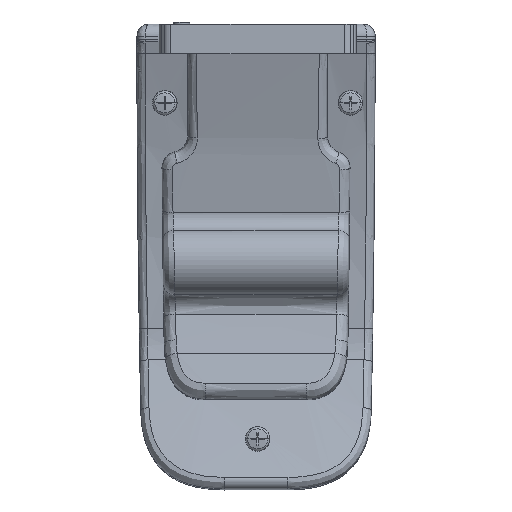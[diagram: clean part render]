
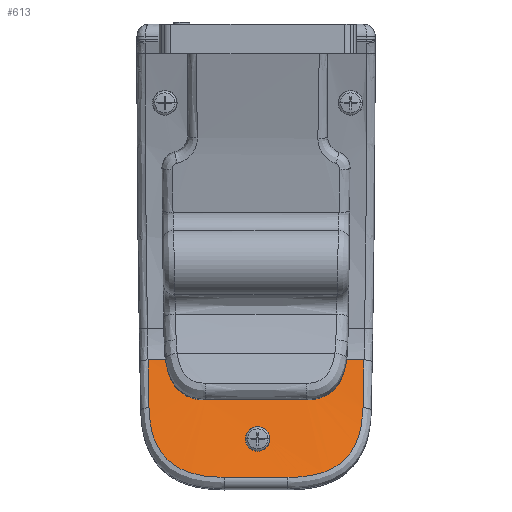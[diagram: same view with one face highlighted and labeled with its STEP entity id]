
A CAD part, left-side view. The second image highlights one B-rep face of the part: STEP entity #613.
In plain terms, the highlighted free-form (B-spline) face has degree [1, 2] with [2, 3] control points.
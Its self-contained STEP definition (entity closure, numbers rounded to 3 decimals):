
#122=FACE_BOUND($,#1878,.T.);
#613=ADVANCED_FACE($,(#1226,#122),#8068,.T.);
#1226=FACE_OUTER_BOUND($,#1877,.T.);
#1877=EDGE_LOOP($,(#4468,#4469,#4470,#4471,#4472,#4473,#4474,#4475,#4476,
#4477));
#1878=EDGE_LOOP($,(#4478,#4479));
#4468=ORIENTED_EDGE($,*,*,#6319,.F.);
#4469=ORIENTED_EDGE($,*,*,#6314,.T.);
#4470=ORIENTED_EDGE($,*,*,#6329,.F.);
#4471=ORIENTED_EDGE($,*,*,#6328,.F.);
#4472=ORIENTED_EDGE($,*,*,#6327,.F.);
#4473=ORIENTED_EDGE($,*,*,#6326,.F.);
#4474=ORIENTED_EDGE($,*,*,#6325,.F.);
#4475=ORIENTED_EDGE($,*,*,#6317,.T.);
#4476=ORIENTED_EDGE($,*,*,#6324,.F.);
#4477=ORIENTED_EDGE($,*,*,#6323,.F.);
#4478=ORIENTED_EDGE($,*,*,#6330,.F.);
#4479=ORIENTED_EDGE($,*,*,#6331,.F.);
#6314=EDGE_CURVE($,#7393,#7394,#9527,.T.);
#6317=EDGE_CURVE($,#7395,#7396,#9530,.T.);
#6319=EDGE_CURVE($,#7393,#7397,#9532,.T.);
#6323=EDGE_CURVE($,#7397,#7400,#9535,.T.);
#6324=EDGE_CURVE($,#7400,#7396,#9536,.T.);
#6325=EDGE_CURVE($,#7395,#7401,#9537,.T.);
#6326=EDGE_CURVE($,#7401,#7402,#9538,.T.);
#6327=EDGE_CURVE($,#7402,#7403,#9539,.T.);
#6328=EDGE_CURVE($,#7403,#7404,#9540,.T.);
#6329=EDGE_CURVE($,#7404,#7394,#9541,.T.);
#6330=EDGE_CURVE($,#7405,#7406,#9542,.T.);
#6331=EDGE_CURVE($,#7406,#7405,#9543,.T.);
#7393=VERTEX_POINT($,#26791);
#7394=VERTEX_POINT($,#26792);
#7395=VERTEX_POINT($,#26793);
#7396=VERTEX_POINT($,#26794);
#7397=VERTEX_POINT($,#26795);
#7400=VERTEX_POINT($,#26798);
#7401=VERTEX_POINT($,#26799);
#7402=VERTEX_POINT($,#26800);
#7403=VERTEX_POINT($,#26801);
#7404=VERTEX_POINT($,#26802);
#7405=VERTEX_POINT($,#26803);
#7406=VERTEX_POINT($,#26804);
#8068=(
BOUNDED_SURFACE()
B_SPLINE_SURFACE(1,2,((#24773,#24774,#24775),(#24776,#24777,#24778)),.UNSPECIFIED.,
.F.,.F.,.F.)
B_SPLINE_SURFACE_WITH_KNOTS((2,2),(3,3),(2.629,28.919),
(219.428,234.734),.UNSPECIFIED.)
GEOMETRIC_REPRESENTATION_ITEM()
RATIONAL_B_SPLINE_SURFACE(((1.,0.998,1.),(1.,0.998,
1.)))
REPRESENTATION_ITEM($)
SURFACE()
);
#9527=B_SPLINE_CURVE_WITH_KNOTS($,3,(#23550,#23551,#23552,#23553),.UNSPECIFIED.,
.F.,.F.,(4,4),(0.,2.106),.UNSPECIFIED.);
#9530=B_SPLINE_CURVE_WITH_KNOTS($,3,(#23562,#23563,#23564,#23565),.UNSPECIFIED.,
.F.,.F.,(4,4),(0.,2.106),.UNSPECIFIED.);
#9532=B_SPLINE_CURVE_WITH_KNOTS($,3,(#23572,#23573,#23574,#23575,#23576,
#23577),.UNSPECIFIED.,.F.,.F.,(4,2,4),(-1.,-0.5,0.),.UNSPECIFIED.);
#9535=B_SPLINE_CURVE_WITH_KNOTS($,1,(#23592,#23593),.UNSPECIFIED.,.F.,.F.,
(2,2),(-12.291,0.),.UNSPECIFIED.);
#9536=B_SPLINE_CURVE_WITH_KNOTS($,3,(#23594,#23595,#23596,#23597,#23598,
#23599,#23600,#23601),.UNSPECIFIED.,.F.,.F.,(4,2,2,4),(-1.,-0.752,
-0.503,0.),.UNSPECIFIED.);
#9537=B_SPLINE_CURVE_WITH_KNOTS($,3,(#23602,#23603,#23604,#23605),.UNSPECIFIED.,
.F.,.F.,(4,4),(-1.,0.),.UNSPECIFIED.);
#9538=B_SPLINE_CURVE_WITH_KNOTS($,3,(#23606,#23607,#23608,#23609,#23610,
#23611,#23612,#23613),.UNSPECIFIED.,.F.,.F.,(4,2,2,4),(-1.,-0.754,
-0.512,0.),.UNSPECIFIED.);
#9539=B_SPLINE_CURVE_WITH_KNOTS($,1,(#23614,#23615),.UNSPECIFIED.,.F.,.F.,
(2,2),(-7.774,0.),.UNSPECIFIED.);
#9540=B_SPLINE_CURVE_WITH_KNOTS($,3,(#23616,#23617,#23618,#23619,#23620,
#23621,#23622,#23623),.UNSPECIFIED.,.F.,.F.,(4,2,2,4),(-1.,-0.487,
-0.245,0.),.UNSPECIFIED.);
#9541=B_SPLINE_CURVE_WITH_KNOTS($,3,(#23624,#23625,#23626,#23627),.UNSPECIFIED.,
.F.,.F.,(4,4),(-1.,0.),.UNSPECIFIED.);
#9542=B_SPLINE_CURVE_WITH_KNOTS($,3,(#23628,#23629,#23630,#23631,#23632,
#23633),.UNSPECIFIED.,.F.,.F.,(4,2,4),(-1.,-0.501,0.),.UNSPECIFIED.);
#9543=B_SPLINE_CURVE_WITH_KNOTS($,3,(#23634,#23635,#23636,#23637,#23638,
#23639),.UNSPECIFIED.,.F.,.F.,(4,2,4),(-1.,-0.499,0.),.UNSPECIFIED.);
#23550=CARTESIAN_POINT($,(87.603,-211.824,152.891));
#23551=CARTESIAN_POINT($,(87.603,-211.122,152.891));
#23552=CARTESIAN_POINT($,(87.603,-210.42,152.891));
#23553=CARTESIAN_POINT($,(87.603,-209.719,152.891));
#23562=CARTESIAN_POINT($,(87.603,-236.009,152.891));
#23563=CARTESIAN_POINT($,(87.603,-235.307,152.891));
#23564=CARTESIAN_POINT($,(87.603,-234.605,152.891));
#23565=CARTESIAN_POINT($,(87.603,-233.903,152.891));
#23572=CARTESIAN_POINT($,(87.603,-211.824,152.891));
#23573=CARTESIAN_POINT($,(87.154,-212.06,151.267));
#23574=CARTESIAN_POINT($,(86.788,-212.581,150.052));
#23575=CARTESIAN_POINT($,(86.281,-214.202,148.422));
#23576=CARTESIAN_POINT($,(86.139,-215.303,148.007));
#23577=CARTESIAN_POINT($,(86.139,-216.718,148.007));
#23592=CARTESIAN_POINT($,(86.139,-216.718,148.007));
#23593=CARTESIAN_POINT($,(86.139,-229.009,148.007));
#23594=CARTESIAN_POINT($,(86.139,-229.009,148.007));
#23595=CARTESIAN_POINT($,(86.139,-229.668,148.007));
#23596=CARTESIAN_POINT($,(86.169,-230.323,148.097));
#23597=CARTESIAN_POINT($,(86.318,-231.543,148.563));
#23598=CARTESIAN_POINT($,(86.442,-232.103,148.955));
#23599=CARTESIAN_POINT($,(86.874,-233.329,150.35));
#23600=CARTESIAN_POINT($,(87.251,-233.718,151.617));
#23601=CARTESIAN_POINT($,(87.603,-233.903,152.891));
#23602=CARTESIAN_POINT($,(87.603,-236.009,152.891));
#23603=CARTESIAN_POINT($,(87.063,-235.973,150.936));
#23604=CARTESIAN_POINT($,(86.472,-235.935,148.996));
#23605=CARTESIAN_POINT($,(85.832,-235.894,147.071));
#23606=CARTESIAN_POINT($,(85.832,-235.894,147.071));
#23607=CARTESIAN_POINT($,(85.444,-235.87,145.902));
#23608=CARTESIAN_POINT($,(85.04,-235.734,144.75));
#23609=CARTESIAN_POINT($,(84.227,-235.03,142.532));
#23610=CARTESIAN_POINT($,(83.816,-234.43,141.469));
#23611=CARTESIAN_POINT($,(82.83,-231.761,138.984));
#23612=CARTESIAN_POINT($,(82.646,-229.118,138.58));
#23613=CARTESIAN_POINT($,(82.646,-226.751,138.58));
#23614=CARTESIAN_POINT($,(82.646,-226.751,138.58));
#23615=CARTESIAN_POINT($,(82.646,-218.976,138.58));
#23616=CARTESIAN_POINT($,(82.646,-218.976,138.58));
#23617=CARTESIAN_POINT($,(82.646,-216.606,138.58));
#23618=CARTESIAN_POINT($,(82.831,-213.964,138.988));
#23619=CARTESIAN_POINT($,(83.814,-211.303,141.463));
#23620=CARTESIAN_POINT($,(84.226,-210.698,142.531));
#23621=CARTESIAN_POINT($,(85.041,-209.992,144.751));
#23622=CARTESIAN_POINT($,(85.444,-209.857,145.903));
#23623=CARTESIAN_POINT($,(85.832,-209.833,147.071));
#23624=CARTESIAN_POINT($,(85.832,-209.833,147.071));
#23625=CARTESIAN_POINT($,(86.472,-209.792,148.996));
#23626=CARTESIAN_POINT($,(87.063,-209.754,150.936));
#23627=CARTESIAN_POINT($,(87.603,-209.719,152.891));
#23628=CARTESIAN_POINT($,(83.931,-223.064,141.773));
#23629=CARTESIAN_POINT($,(83.931,-223.936,141.773));
#23630=CARTESIAN_POINT($,(84.207,-224.562,142.488));
#23631=CARTESIAN_POINT($,(84.788,-224.565,144.056));
#23632=CARTESIAN_POINT($,(85.042,-223.937,144.773));
#23633=CARTESIAN_POINT($,(85.042,-223.064,144.773));
#23634=CARTESIAN_POINT($,(85.042,-223.064,144.773));
#23635=CARTESIAN_POINT($,(85.042,-222.191,144.773));
#23636=CARTESIAN_POINT($,(84.788,-221.562,144.056));
#23637=CARTESIAN_POINT($,(84.207,-221.565,142.488));
#23638=CARTESIAN_POINT($,(83.931,-222.191,141.773));
#23639=CARTESIAN_POINT($,(83.931,-223.064,141.773));
#24773=CARTESIAN_POINT($,(87.603,-236.009,152.891));
#24774=CARTESIAN_POINT($,(85.56,-236.009,145.504));
#24775=CARTESIAN_POINT($,(82.587,-236.009,138.44));
#24776=CARTESIAN_POINT($,(87.603,-209.719,152.891));
#24777=CARTESIAN_POINT($,(85.56,-209.719,145.504));
#24778=CARTESIAN_POINT($,(82.587,-209.719,138.44));
#26791=CARTESIAN_POINT($,(87.603,-211.824,152.891));
#26792=CARTESIAN_POINT($,(87.603,-209.719,152.891));
#26793=CARTESIAN_POINT($,(87.603,-236.009,152.891));
#26794=CARTESIAN_POINT($,(87.603,-233.903,152.891));
#26795=CARTESIAN_POINT($,(86.139,-216.718,148.007));
#26798=CARTESIAN_POINT($,(86.139,-229.009,148.007));
#26799=CARTESIAN_POINT($,(85.832,-235.894,147.071));
#26800=CARTESIAN_POINT($,(82.646,-226.751,138.58));
#26801=CARTESIAN_POINT($,(82.646,-218.976,138.58));
#26802=CARTESIAN_POINT($,(85.832,-209.833,147.071));
#26803=CARTESIAN_POINT($,(83.931,-223.064,141.773));
#26804=CARTESIAN_POINT($,(85.042,-223.064,144.773));
